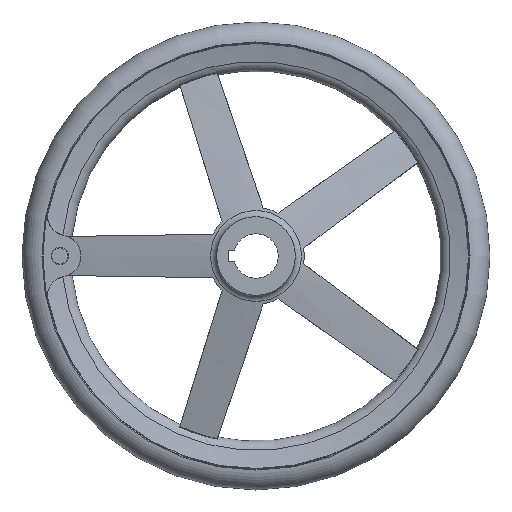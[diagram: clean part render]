
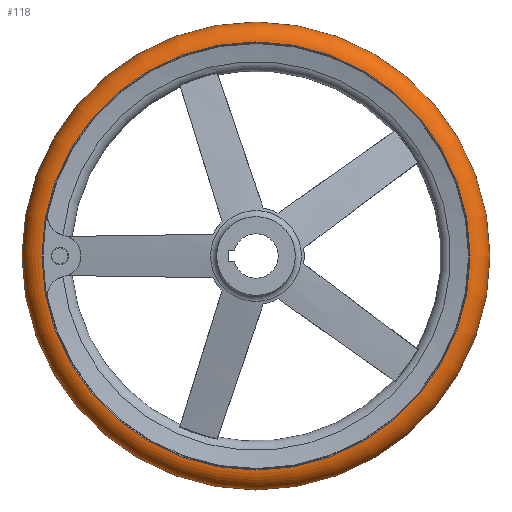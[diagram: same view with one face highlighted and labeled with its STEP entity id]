
A CAD part, left-side view. The second image highlights one B-rep face of the part: STEP entity #118.
In plain terms, the highlighted toroidal (fillet/blend) face has major radius 143.487 mm and minor radius 14.013 mm.
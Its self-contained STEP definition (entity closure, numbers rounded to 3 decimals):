
#118 = ADVANCED_FACE( '', ( #252, #253, #254 ), #255, .T. );
#252 = FACE_BOUND( '', #452, .T. );
#253 = FACE_OUTER_BOUND( '', #453, .T. );
#254 = FACE_OUTER_BOUND( '', #454, .T. );
#255 = TOROIDAL_SURFACE( '', #455, 143.487, 14.013 );
#452 = VERTEX_LOOP( '', #873 );
#453 = EDGE_LOOP( '', ( #874 ) );
#454 = EDGE_LOOP( '', ( #875 ) );
#455 = AXIS2_PLACEMENT_3D( '', #876, #877, #878 );
#873 = VERTEX_POINT( '', #1209 );
#874 = ORIENTED_EDGE( '', *, *, #1208, .T. );
#875 = ORIENTED_EDGE( '', *, *, #1189, .F. );
#876 = CARTESIAN_POINT( '', ( 42., 0., 0. ) );
#877 = DIRECTION( '', ( 1., 0., 0. ) );
#878 = DIRECTION( '', ( 0., 1., 0. ) );
#1189 = EDGE_CURVE( '', #1467, #1467, #1468, .T. );
#1208 = EDGE_CURVE( '', #1496, #1496, #1497, .T. );
#1209 = CARTESIAN_POINT( '', ( 42., 157.5, 0. ) );
#1467 = VERTEX_POINT( '', #2369 );
#1468 = CIRCLE( '', #2370, 144.083 );
#1496 = VERTEX_POINT( '', #2451 );
#1497 = CIRCLE( '', #2452, 144.083 );
#2369 = CARTESIAN_POINT( '', ( 56., 144.083, 0. ) );
#2370 = AXIS2_PLACEMENT_3D( '', #2713, #2714, #2715 );
#2451 = CARTESIAN_POINT( '', ( 28., 144.083, 0. ) );
#2452 = AXIS2_PLACEMENT_3D( '', #2754, #2755, #2756 );
#2713 = CARTESIAN_POINT( '', ( 56., 0., 0. ) );
#2714 = DIRECTION( '', ( 1., 0., 0. ) );
#2715 = DIRECTION( '', ( 0., 1., 0. ) );
#2754 = CARTESIAN_POINT( '', ( 28., 0., 0. ) );
#2755 = DIRECTION( '', ( 1., 0., 0. ) );
#2756 = DIRECTION( '', ( 0., 1., 0. ) );
